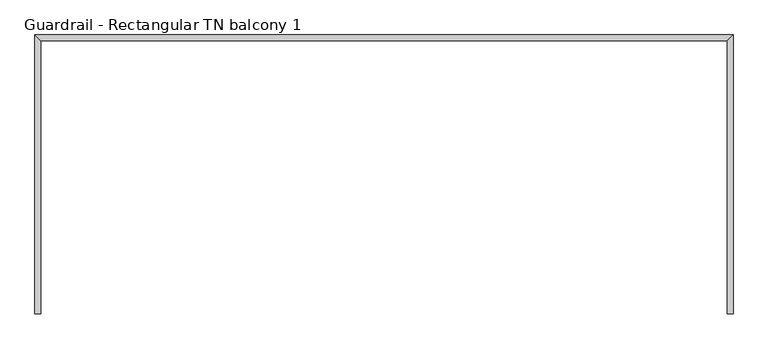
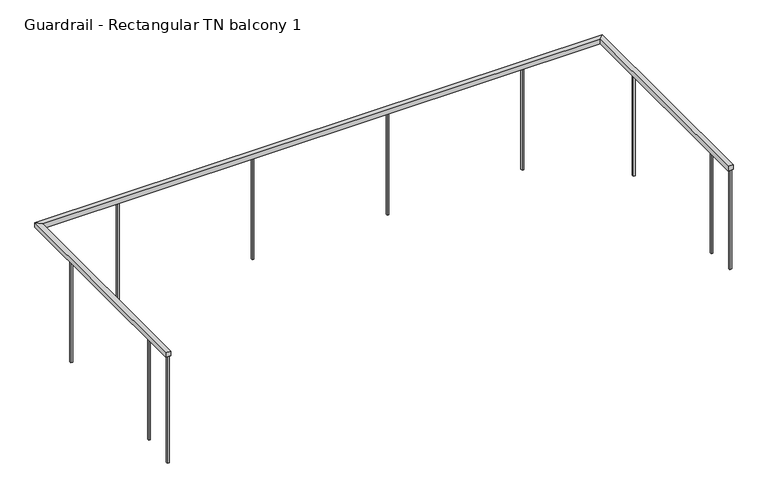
"""IFC4 building model written with IfcOpenShell, lengths in millimetres: railing geometry, Guardrail - Rectangular TN balcony 1."""

from ifc_helpers import new_model, si_unit, frame, origin, place, context, project, spatial, polyline, outline, extrude, faceted_brep, source, transform, mapped, element, save


def guardrail_rectangular_tn_balcony_1_b59f09ed(model_context):
    return source(origin(), model_context, "Body", "SolidModel", [
        faceted_brep([(1877.0760724, -12596.8966791, 3666.8), (1826.2760724, -12596.8966791, 3666.8), (1826.2760724, -12596.8966791, 3616.0), (1877.0760724, -12596.8966791, 3616.0), (1877.0760724, -10246.0966791, 3666.8), (1826.2760724, -10296.8966791, 3666.8), (1826.2760724, -10296.8966791, 3616.0), (1877.0760724, -10246.0966791, 3616.0), (-4010.0239276, -10246.0966791, 3666.8), (-3959.2239276, -10296.8966791, 3666.8), (-3959.2239276, -10296.8966791, 3616.0), (-4010.0239276, -10246.0966791, 3616.0), (-4010.0239276, -12596.8966791, 3666.8), (-4010.0239276, -12596.8966791, 3616.0), (-3959.2239276, -12596.8966791, 3616.0), (-3959.2239276, -12596.8966791, 3666.8)], [[[0, 1, 2, 3]], [[1, 0, 4, 5]], [[2, 1, 5, 6]], [[3, 2, 6, 7]], [[0, 3, 7, 4]], [[5, 4, 8, 9]], [[6, 5, 9, 10]], [[7, 6, 10, 11]], [[4, 7, 11, 8]], [[12, 13, 14, 15]], [[9, 8, 12, 15]], [[10, 9, 15, 14]], [[11, 10, 14, 13]], [[8, 11, 13, 12]]]),
        extrude(outline(polyline([(-3994.1489276, -12243.8216791), (-3975.0989276, -12243.8216791), (-3975.0989276, -12262.8716791), (-3994.1489276, -12262.8716791), (-3994.1489276, -12243.8216791)])), frame((0.0, 0.0, 2500.0), z_axis=(0.0, 0.0, 1.0), x_axis=(1.0, 0.0, 0.0)), (0.0, 0.0, 1.0), 1116.0),
        extrude(outline(polyline([(-3994.1489276, -10843.8216791), (-3975.0989276, -10843.8216791), (-3975.0989276, -10862.8716791), (-3994.1489276, -10862.8716791), (-3994.1489276, -10843.8216791)])), frame((0.0, 0.0, 2500.0), z_axis=(0.0, 0.0, 1.0), x_axis=(1.0, 0.0, 0.0)), (0.0, 0.0, 1.0), 1116.0),
        extrude(outline(polyline([(-3156.9489276, -10261.9716791), (-3156.9489276, -10281.0216791), (-3175.9989276, -10281.0216791), (-3175.9989276, -10261.9716791), (-3156.9489276, -10261.9716791)])), frame((0.0, 0.0, 2500.0), z_axis=(0.0, 0.0, 1.0), x_axis=(1.0, 0.0, 0.0)), (0.0, 0.0, 1.0), 1116.0),
        extrude(outline(polyline([(-1756.9489276, -10261.9716791), (-1756.9489276, -10281.0216791), (-1775.9989276, -10281.0216791), (-1775.9989276, -10261.9716791), (-1756.9489276, -10261.9716791)])), frame((0.0, 0.0, 2500.0), z_axis=(0.0, 0.0, 1.0), x_axis=(1.0, 0.0, 0.0)), (0.0, 0.0, 1.0), 1116.0),
        extrude(outline(polyline([(-356.9489276, -10261.9716791), (-356.9489276, -10281.0216791), (-375.9989276, -10281.0216791), (-375.9989276, -10261.9716791), (-356.9489276, -10261.9716791)])), frame((0.0, 0.0, 2500.0), z_axis=(0.0, 0.0, 1.0), x_axis=(1.0, 0.0, 0.0)), (0.0, 0.0, 1.0), 1116.0),
        extrude(outline(polyline([(1043.0510724, -10261.9716791), (1043.0510724, -10281.0216791), (1024.0010724, -10281.0216791), (1024.0010724, -10261.9716791), (1043.0510724, -10261.9716791)])), frame((0.0, 0.0, 2500.0), z_axis=(0.0, 0.0, 1.0), x_axis=(1.0, 0.0, 0.0)), (0.0, 0.0, 1.0), 1116.0),
        extrude(outline(polyline([(1861.2010724, -10862.8716791), (1842.1510724, -10862.8716791), (1842.1510724, -10843.8216791), (1861.2010724, -10843.8216791), (1861.2010724, -10862.8716791)])), frame((0.0, 0.0, 2500.0), z_axis=(0.0, 0.0, 1.0), x_axis=(1.0, 0.0, 0.0)), (0.0, 0.0, 1.0), 1116.0),
        extrude(outline(polyline([(1861.2010724, -12262.8716791), (1842.1510724, -12262.8716791), (1842.1510724, -12243.8216791), (1861.2010724, -12243.8216791), (1861.2010724, -12262.8716791)])), frame((0.0, 0.0, 2500.0), z_axis=(0.0, 0.0, 1.0), x_axis=(1.0, 0.0, 0.0)), (0.0, 0.0, 1.0), 1116.0),
        extrude(outline(polyline([(-3994.1489276, -12577.8716791), (-3975.0989276, -12577.8716791), (-3975.0989276, -12596.9216791), (-3994.1489276, -12596.9216791), (-3994.1489276, -12577.8716791)])), frame((0.0, 0.0, 2450.0), z_axis=(0.0, 0.0, 1.0), x_axis=(1.0, 0.0, 0.0)), (0.0, 0.0, 1.0), 1166.0),
        extrude(outline(polyline([(1861.2010724, -12596.9216791), (1842.1510724, -12596.9216791), (1842.1510724, -12577.8716791), (1861.2010724, -12577.8716791), (1861.2010724, -12596.9216791)])), frame((0.0, 0.0, 2530.0), z_axis=(0.0, 0.0, 1.0), x_axis=(1.0, 0.0, 0.0)), (0.0, 0.0, 1.0), 1086.0),
    ])


if __name__ == "__main__":
    model = new_model("IFC4")
    model_context = context("Model", 3, world=origin())
    ifc_project = project(units=[si_unit("LENGTHUNIT", "METRE", prefix="MILLI")], contexts=[model_context])
    site = spatial("IfcSite", under=ifc_project)
    building = spatial("IfcBuilding", under=site)
    placement = place(None, origin())
    guardrail_rectangular_tn_balcony_1_shape = guardrail_rectangular_tn_balcony_1_b59f09ed(model_context)
    element("IfcRailing", 1, ObjectType="Guardrail - Rectangular TN balcony 1", at=placement, inside=building, context=model_context, shape_type="MappedRepresentation", body=[
        mapped(guardrail_rectangular_tn_balcony_1_shape, transform((0.0, 0.0, 0.0), x_axis=(1.0, 0.0, 0.0), y_axis=(0.0, 1.0, 0.0), z_axis=(0.0, 0.0, 1.0))),
    ])
    save(model, "model.ifc")
